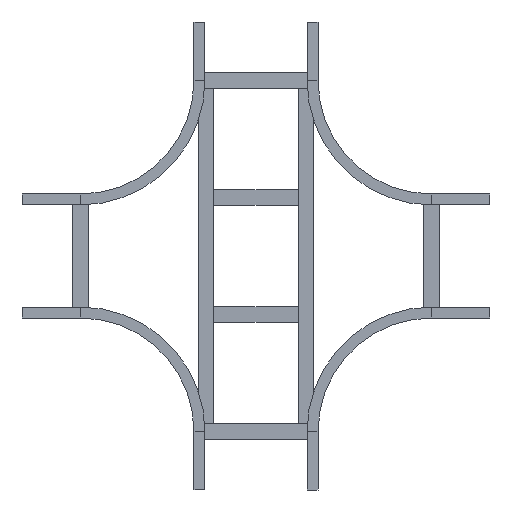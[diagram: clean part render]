
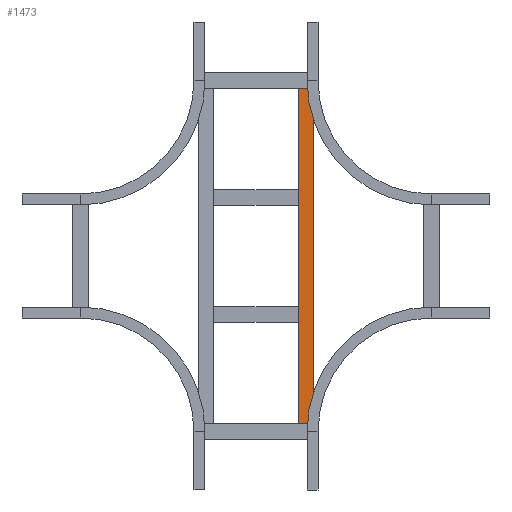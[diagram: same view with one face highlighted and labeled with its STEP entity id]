
A CAD part, front view. The second image highlights one B-rep face of the part: STEP entity #1473.
In plain terms, the highlighted planar face has unit normal (0, -1, 0).
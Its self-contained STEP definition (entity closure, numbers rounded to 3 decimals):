
#70 = ORIENTED_EDGE ( 'NONE', *, *, #908, .F. ) ;
#337 = AXIS2_PLACEMENT_3D ( 'NONE', #2506, #735, #1806 ) ;
#349 = CARTESIAN_POINT ( 'NONE',  ( 429.75, 0., -20.25 ) ) ;
#356 = VERTEX_POINT ( 'NONE', #2238 ) ;
#471 = VECTOR ( 'NONE', #2025, 1000. ) ;
#532 = CARTESIAN_POINT ( 'NONE',  ( -429.75, 0., 20.25 ) ) ;
#554 = DIRECTION ( 'NONE',  ( 0., 0., -1. ) ) ;
#576 = PLANE ( 'NONE',  #337 ) ;
#649 = DIRECTION ( 'NONE',  ( -1., 0., 0. ) ) ;
#693 = LINE ( 'NONE', #349, #876 ) ;
#709 = VECTOR ( 'NONE', #979, 1000. ) ;
#735 = DIRECTION ( 'NONE',  ( 0., 1., 0. ) ) ;
#824 = CARTESIAN_POINT ( 'NONE',  ( 429.75, 0., 20.25 ) ) ;
#876 = VECTOR ( 'NONE', #649, 1000. ) ;
#908 = EDGE_CURVE ( 'NONE', #356, #1581, #693, .T. ) ;
#979 = DIRECTION ( 'NONE',  ( 0., 0., -1. ) ) ;
#1003 = CARTESIAN_POINT ( 'NONE',  ( 429.75, 0., 20.25 ) ) ;
#1063 = EDGE_CURVE ( 'NONE', #1916, #2005, #2464, .T. ) ;
#1301 = ORIENTED_EDGE ( 'NONE', *, *, #2482, .F. ) ;
#1430 = CARTESIAN_POINT ( 'NONE',  ( 429.75, 0., 20.25 ) ) ;
#1473 = ADVANCED_FACE ( 'NONE', ( #2710 ), #576, .F. ) ;
#1544 = ORIENTED_EDGE ( 'NONE', *, *, #2459, .T. ) ;
#1581 = VERTEX_POINT ( 'NONE', #2532 ) ;
#1644 = CARTESIAN_POINT ( 'NONE',  ( -429.75, 0., 20.25 ) ) ;
#1798 = ORIENTED_EDGE ( 'NONE', *, *, #1063, .T. ) ;
#1806 = DIRECTION ( 'NONE',  ( 0., 0., 1. ) ) ;
#1834 = LINE ( 'NONE', #1003, #2665 ) ;
#1916 = VERTEX_POINT ( 'NONE', #824 ) ;
#2005 = VERTEX_POINT ( 'NONE', #532 ) ;
#2025 = DIRECTION ( 'NONE',  ( -1., 0., 0. ) ) ;
#2051 = EDGE_LOOP ( 'NONE', ( #1544, #70, #1301, #1798 ) ) ;
#2207 = LINE ( 'NONE', #1644, #709 ) ;
#2238 = CARTESIAN_POINT ( 'NONE',  ( 429.75, 0., -20.25 ) ) ;
#2459 = EDGE_CURVE ( 'NONE', #2005, #1581, #2207, .T. ) ;
#2464 = LINE ( 'NONE', #1430, #471 ) ;
#2482 = EDGE_CURVE ( 'NONE', #1916, #356, #1834, .T. ) ;
#2506 = CARTESIAN_POINT ( 'NONE',  ( 429.75, 0., 20.25 ) ) ;
#2532 = CARTESIAN_POINT ( 'NONE',  ( -429.75, 0., -20.25 ) ) ;
#2665 = VECTOR ( 'NONE', #554, 1000. ) ;
#2710 = FACE_OUTER_BOUND ( 'NONE', #2051, .T. ) ;
